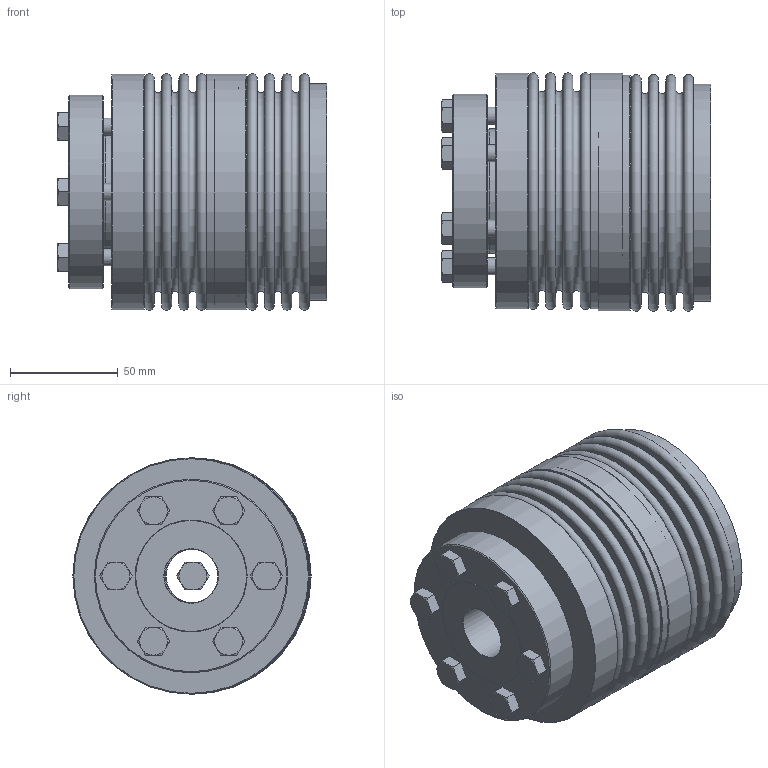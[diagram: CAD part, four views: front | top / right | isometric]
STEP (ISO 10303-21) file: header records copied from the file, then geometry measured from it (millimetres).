
FILE_DESCRIPTION( ( 'Unknown' ), '1' );
FILE_NAME( 'C:/Dokumente und Einstellungen/Sven/Desktop/homepage/cad - homepage/KB6/KB6-300-108.stp', 'Unknown', ( 'Unknown' ), ( 'Unknown' ), 'XStep 1.0', 'Unknown', ' ' );
FILE_SCHEMA( ( 'automotive_design' ) );
Length unit declared in the file: millimetre
Products named in the file (5): Assem1; Hex Screw GradeC_DIN_ISO 4018 - M8 x 30-NN; DR300_Standard; BA300_Standard; BK300_Standard
Bounding box: 125.14 x 110.81 x 109.99 mm (x, y, z)
Volume: 746676 mm3; surface area: 279794.6 mm2
Topology: 21 solids, 21 shells, 383 faces, 789 edges, 496 vertices
Faces by surface type: plane 168, cone 118, cylinder 69, torus 28
Full cylindrical faces by diameter (mm): 6.8 x18, 8 x13, 9 x18, 25 x3, 57.995 x3, 90 x3, 99.8 x4, 101 x4, 109.5 x3
Entity records: 2396 total; most frequent: DIRECTION 388, CARTESIAN_POINT 347, ORIENTED_EDGE 222, AXIS2_PLACEMENT_3D 188, EDGE_LOOP 176, FACE_OUTER_BOUND 118, EDGE_CURVE 111, VERTEX_POINT 99
